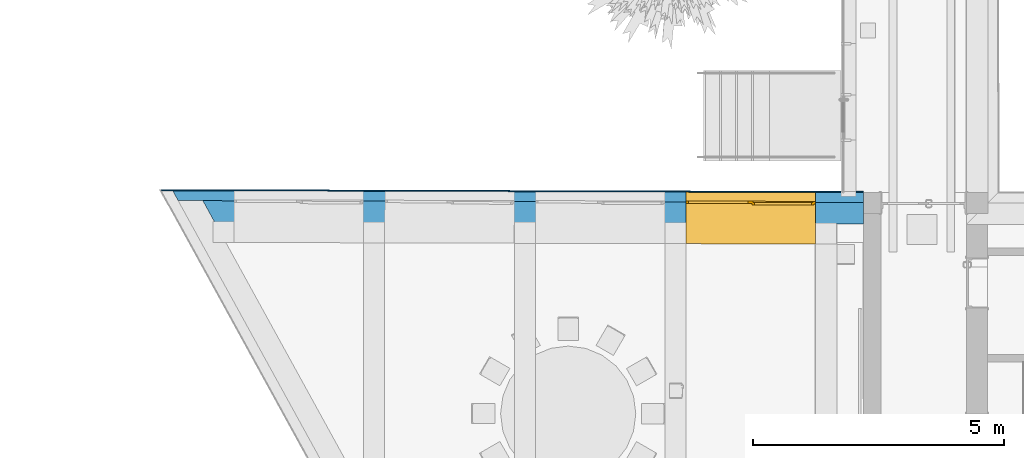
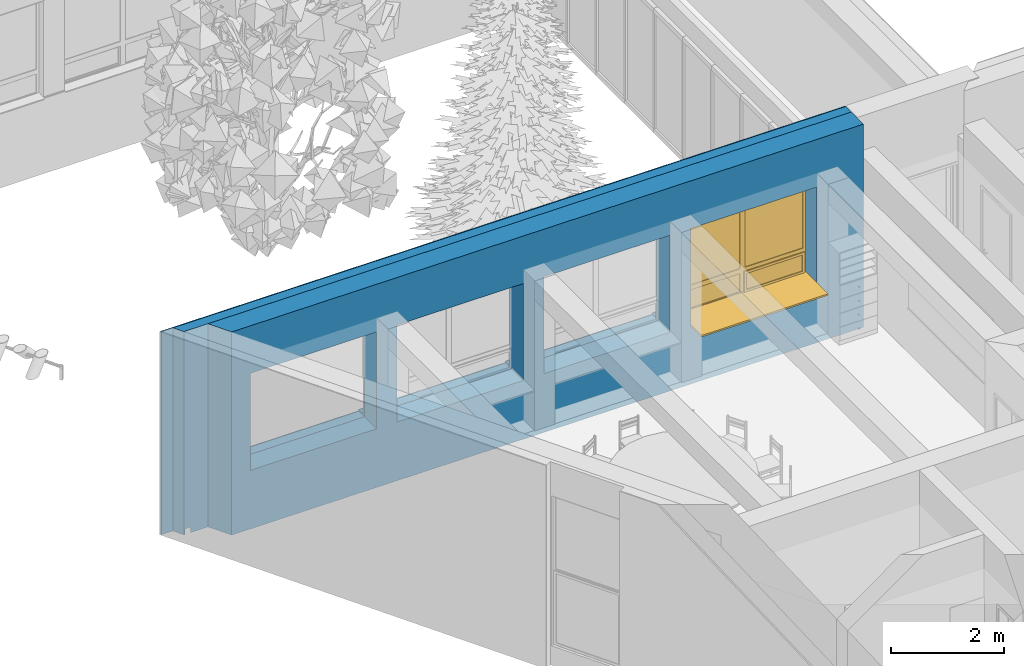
# One storey, part 83 of 194: 3 building element parts, 1 window, 4 openings, 1 element without a shape of its own.
"""IFC2X3 building model written with IfcOpenShell, lengths in millimetres."""

from ifc_helpers import new_model, entity, si_unit, converted_unit, derived_unit, money_unit, direction, frame, origin_with_axes, origin_2d_with_axis, place, context, subcontext, project, spatial, polyline, rectangle, outline, extrude, boolean, open_shell, faceted_brep, surface_model, material, type_object, element, fill, aggregate, save


model = new_model("IFC2X3")

# Units and contexts
model_context = context("Model", 3, precision=1e-05, world=origin_with_axes(), true_north=direction((0.0, 1.0)))
body_context = subcontext(model_context, "Body", "Model", "MODEL_VIEW")
ifc_project = project(units=[si_unit("LENGTHUNIT", "METRE", prefix="MILLI"), si_unit("AREAUNIT", "SQUARE_METRE"), si_unit("VOLUMEUNIT", "CUBIC_METRE"), converted_unit("PLANEANGLEUNIT", "DEGREE", entity("IfcPlaneAngleMeasure", 0.0174532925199), si_unit("PLANEANGLEUNIT", "RADIAN"), dimensions=[0, 0, 0, 0, 0, 0, 0]), si_unit("SOLIDANGLEUNIT", "STERADIAN"), money_unit("EUR"), converted_unit("TIMEUNIT", "Year", entity("IfcTimeMeasure", 31556926.0), si_unit("TIMEUNIT", "SECOND"), dimensions=[0, 0, 1, 0, 0, 0, 0]), si_unit("MASSUNIT", "GRAM", prefix="KILO"), si_unit("THERMODYNAMICTEMPERATUREUNIT", "DEGREE_CELSIUS"), si_unit("LUMINOUSINTENSITYUNIT", "LUMEN"), si_unit("ENERGYUNIT", "JOULE", prefix="MEGA"), derived_unit("THERMALCONDUCTANCEUNIT", [(si_unit("POWERUNIT", "WATT"), 1), (si_unit("LENGTHUNIT", "METRE"), -1), (si_unit("THERMODYNAMICTEMPERATUREUNIT", "KELVIN"), -1)]), derived_unit("SPECIFICHEATCAPACITYUNIT", [(si_unit("ENERGYUNIT", "JOULE"), 1), (si_unit("MASSUNIT", "GRAM", prefix="KILO"), -1), (si_unit("THERMODYNAMICTEMPERATUREUNIT", "KELVIN"), -1)]), derived_unit("MASSDENSITYUNIT", [(si_unit("MASSUNIT", "GRAM", prefix="KILO"), 1), (si_unit("VOLUMEUNIT", "CUBIC_METRE"), -1)])], contexts=[model_context])

# Site, building, storey
site_placement = place(None, origin_with_axes())
site = spatial("IfcSite", under=ifc_project, at=site_placement, Name="Site", CompositionType="ELEMENT")
building_placement = place(site_placement, origin_with_axes())
building = spatial("IfcBuilding", under=site, at=building_placement, Name="Building", CompositionType="ELEMENT")
storey_placement = place(building_placement, frame((0.0, 0.0, 3000.0), z_axis=(0.0, 0.0, 1.0), x_axis=(1.0, 0.0, 0.0)))
storey = spatial("IfcBuildingStorey", under=building, at=storey_placement, Name="2 KORRUS", CompositionType="ELEMENT", Elevation=3000.0)

# Window
window_style = type_object("IfcWindowStyle", Name="A2   2\xa0580×2\xa0100", ConstructionType="NOTDEFINED", OperationType="USERDEFINED", ParameterTakesPrecedence=False, Sizeable=False)
wall_placement = place(storey_placement, frame((24039.9995096, 22808.1040573, -420.0), z_axis=(0.0, 0.0, 1.0), x_axis=(0.999996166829, -0.0027688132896, 0.0)))
opening_1_placement = place(wall_placement, frame((11402.4933934, 0.0, 1270.0), z_axis=(0.0, 0.0, 1.0), x_axis=(1.0, 0.0, 0.0)))
window_placement = place(opening_1_placement, frame((1290.0, 0.0, 0.0), z_axis=(0.0, 0.0, 1.0), x_axis=(-1.0, 0.0, 0.0)))
window = element("IfcWindow", 1, at=window_placement, inside=storey, type_object=window_style, Name="välisaken * Double Window 22", OverallHeight=2100.0, OverallWidth=2580.0, context=body_context, shape_type="SurfaceModel", body=[
    faceted_brep([(2580.0, -219.999999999, 5.0), (2580.0, -19.9999999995, 5.0), (2580.0, -19.9999999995, 30.0), (2580.0, -219.999999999, 19.5184441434), (-1.13686837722e-10, -20.0000000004, 5.0), (0.0, -220.0, 5.0), (-1.13686837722e-10, -20.0000000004, 30.0), (0.0, -220.0, 19.5184441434)], [[[0, 1, 2, 3]], [[4, 1, 0, 5]], [[1, 4, 6, 2]], [[3, 2, 6, 7]], [[5, 0, 3, 7]], [[4, 5, 7, 6]]]),
    faceted_brep([(2580.0, -19.9999999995, 0.0), (2580.0, -19.9999999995, 5.0), (2580.0, -219.999999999, 5.0), (2580.0, -219.999999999, 0.0), (-1.13686837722e-10, -20.0000000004, 0.0), (-1.13686837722e-10, -20.0000000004, 5.0), (0.0, -220.0, 5.0), (0.0, -220.0, 0.0)], [[[0, 1, 2, 3]], [[4, 5, 1, 0]], [[1, 5, 6, 2]], [[3, 2, 6, 7]], [[0, 3, 7, 4]], [[7, 6, 5, 4]]]),
    faceted_brep([(-1.13686837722e-10, 29.9999999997, 0.0), (-1.13686837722e-10, 29.9999999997, 30.0), (0.0, 430.0, 30.0), (0.0, 430.0, 0.0), (2580.0, 30.0000000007, 0.0), (2580.0, 30.0000000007, 30.0), (2580.0, 430.0, 30.0), (2580.0, 830.000000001, 30.0), (0.0, 830.000000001, 30.0), (0.0, 830.000000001, 0.0), (2580.0, 830.000000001, 0.0), (2580.0, 430.0, 0.0)], [[[0, 1, 2, 3]], [[4, 5, 1, 0]], [[1, 5, 6, 7, 8, 2]], [[3, 2, 8, 9]], [[0, 3, 9, 10, 11, 4]], [[11, 6, 5, 4]], [[10, 7, 6, 11]], [[9, 8, 7, 10]]]),
    faceted_brep([(25.0, 30.0000000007, 475.0), (25.0, 30.0000000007, 50.0), (-1.13686837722e-10, 29.9999999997, 50.0), (-1.13686837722e-10, 29.9999999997, 2050.0), (50.0, 30.0000000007, 2050.0), (50.0, 30.0000000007, 550.0), (50.0, 30.0000000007, 475.0), (25.0, 5.00000000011, 475.0), (25.0, 5.00000000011, 50.0), (50.0, 5.00000000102, 50.0), (50.0, -19.9999999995, 50.0), (-1.13686837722e-10, -20.0000000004, 50.0), (-1.13686837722e-10, -20.0000000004, 2050.0), (50.0, -19.9999999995, 2050.0), (50.0, -19.9999999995, 550.0), (50.0, 5.00000000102, 475.0), (50.0, -19.9999999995, 450.0), (50.0, 5.00000000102, 450.0)], [[[0, 1, 2, 3, 4, 5, 6]], [[1, 0, 7, 8]], [[8, 9, 10, 11, 2, 1]], [[2, 11, 12, 3]], [[3, 12, 13, 4]], [[4, 13, 14, 5]], [[15, 6, 5, 14, 16, 17]], [[0, 6, 15, 7]], [[9, 8, 7, 15, 17]], [[9, 17, 16, 10]], [[11, 10, 16, 14, 13, 12]]]),
    faceted_brep([(1265.0, 29.9999999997, 50.0), (1265.0, 29.9999999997, 475.0), (1240.0, 30.0000000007, 475.0), (1240.0, 30.0000000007, 550.0), (1240.0, 30.0000000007, 2050.0), (1340.0, 30.0000000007, 2050.0), (1340.0, 30.0000000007, 550.0), (1340.0, 30.0000000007, 450.0), (1340.0, 30.0000000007, 50.0), (1265.0, 5.00000000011, 50.0), (1265.0, 5.00000000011, 475.0), (1240.0, 5.00000000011, 475.0), (1240.0, 5.00000000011, 450.0), (1240.0, -19.9999999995, 450.0), (1240.0, -19.9999999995, 550.0), (1240.0, -19.9999999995, 2050.0), (1340.0, -19.9999999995, 2050.0), (1340.0, -19.9999999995, 550.0), (1340.0, -19.9999999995, 450.0), (1340.0, -19.9999999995, 50.0), (1240.0, -19.9999999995, 50.0), (1240.0, 5.00000000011, 50.0)], [[[0, 1, 2, 3, 4, 5, 6, 7, 8]], [[1, 0, 9, 10]], [[11, 2, 1, 10]], [[11, 12, 13, 14, 3, 2]], [[3, 14, 15, 4]], [[4, 15, 16, 5]], [[5, 16, 17, 6]], [[6, 17, 18, 7]], [[7, 18, 19, 8]], [[9, 0, 8, 19, 20, 21]], [[12, 11, 10, 9, 21]], [[12, 21, 20, 13]], [[18, 17, 16, 15, 14, 13, 20, 19]]]),
    faceted_brep([(1240.0, 30.0000000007, 475.0), (50.0, 30.0000000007, 475.0), (50.0, 30.0000000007, 550.0), (1240.0, 30.0000000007, 550.0), (50.0, 5.00000000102, 475.0), (1240.0, 5.00000000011, 475.0), (50.0, 5.00000000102, 450.0), (50.0, -19.9999999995, 450.0), (50.0, -19.9999999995, 550.0), (1240.0, -19.9999999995, 550.0), (1240.0, -19.9999999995, 450.0), (1240.0, 5.00000000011, 450.0)], [[[0, 1, 2, 3]], [[4, 1, 0, 5]], [[4, 6, 7, 8, 2, 1]], [[2, 8, 9, 3]], [[5, 0, 3, 9, 10, 11]], [[6, 4, 5, 11]], [[6, 11, 10, 7]], [[10, 9, 8, 7]]]),
    faceted_brep([(50.0, 5.00000000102, 50.0), (25.0, 5.00000000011, 50.0), (25.0, 30.0000000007, 50.0), (-1.13686837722e-10, 29.9999999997, 50.0), (-1.13686837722e-10, -20.0000000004, 50.0), (50.0, -19.9999999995, 50.0), (1240.0, 5.00000000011, 50.0), (1265.0, 5.00000000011, 50.0), (1265.0, 5.00000000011, 25.0), (25.0, 5.00000000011, 25.0), (25.0, 30.0000000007, 25.0), (1265.0, 29.9999999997, 25.0), (1265.0, 29.9999999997, 50.0), (1340.0, 30.0000000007, 50.0), (2530.0, 29.9999999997, 50.0), (2580.0, 30.0000000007, 50.0), (2580.0, 30.0000000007, 0.0), (-1.13686837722e-10, 29.9999999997, 0.0), (-1.13686837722e-10, -20.0000000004, 0.0), (2580.0, -19.9999999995, 50.0), (2530.0, -19.9999999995, 50.0), (1340.0, -19.9999999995, 50.0), (1240.0, -19.9999999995, 50.0), (2580.0, -19.9999999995, 0.0)], [[[0, 1, 2, 3, 4, 5]], [[1, 0, 6, 7, 8, 9]], [[10, 2, 1, 9]], [[11, 12, 13, 14, 15, 16, 17, 3, 2, 10]], [[17, 18, 4, 3]], [[19, 20, 21, 22, 5, 4, 18, 23]], [[6, 0, 5, 22]], [[7, 6, 22, 21, 13, 12]], [[7, 12, 11, 8]], [[11, 10, 9, 8]], [[13, 21, 20, 14]], [[14, 20, 19, 15]], [[15, 19, 23, 16]], [[16, 23, 18, 17]]]),
    faceted_brep([(2530.0, -19.9999999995, 450.0), (2530.0, -19.9999999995, 550.0), (2530.0, 29.9999999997, 550.0), (2530.0, 29.9999999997, 450.0), (2530.0, -19.9999999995, 50.0), (2580.0, -19.9999999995, 50.0), (2580.0, -19.9999999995, 2050.0), (2530.0, -19.9999999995, 2050.0), (2530.0, 29.9999999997, 2050.0), (2580.0, 30.0000000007, 2050.0), (2580.0, 30.0000000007, 50.0), (2530.0, 29.9999999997, 50.0)], [[[0, 1, 2, 3]], [[0, 4, 5, 6, 7, 1]], [[1, 7, 8, 2]], [[3, 2, 8, 9, 10, 11]], [[4, 0, 3, 11]], [[5, 4, 11, 10]], [[6, 5, 10, 9]], [[7, 6, 9, 8]]]),
    faceted_brep([(1340.0, -19.9999999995, 450.0), (1340.0, -19.9999999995, 550.0), (1340.0, 30.0000000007, 550.0), (1340.0, 30.0000000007, 450.0), (2530.0, -19.9999999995, 450.0), (2530.0, -19.9999999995, 550.0), (2530.0, 29.9999999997, 550.0), (2530.0, 29.9999999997, 450.0)], [[[0, 1, 2, 3]], [[0, 4, 5, 1]], [[1, 5, 6, 2]], [[3, 2, 6, 7]], [[4, 0, 3, 7]], [[5, 4, 7, 6]]]),
    faceted_brep([(1340.0, -19.9999999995, 2050.0), (1240.0, -19.9999999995, 2050.0), (1240.0, 30.0000000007, 2050.0), (1340.0, 30.0000000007, 2050.0), (2530.0, -19.9999999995, 2050.0), (2580.0, -19.9999999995, 2050.0), (2580.0, -19.9999999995, 2100.0), (-1.13686837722e-10, -20.0000000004, 2100.0), (-1.13686837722e-10, -20.0000000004, 2050.0), (50.0, -19.9999999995, 2050.0), (50.0, 30.0000000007, 2050.0), (-1.13686837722e-10, 29.9999999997, 2050.0), (-1.13686837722e-10, 29.9999999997, 2100.0), (2580.0, 30.0000000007, 2100.0), (2580.0, 30.0000000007, 2050.0), (2530.0, 29.9999999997, 2050.0)], [[[0, 1, 2, 3]], [[0, 4, 5, 6, 7, 8, 9, 1]], [[1, 9, 10, 2]], [[3, 2, 10, 11, 12, 13, 14, 15]], [[4, 0, 3, 15]], [[5, 4, 15, 14]], [[6, 5, 14, 13]], [[7, 6, 13, 12]], [[8, 7, 12, 11]], [[9, 8, 11, 10]]]),
    surface_model("IfcShellBasedSurfaceModel", [(2530.0, -4.9999999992, 550.0), (2530.0, -4.9999999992, 2050.0), (1340.0, -5.00000000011, 2050.0), (1340.0, -5.00000000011, 550.0)], [open_shell([[[0, 1, 2, 3]]])]),
    surface_model("IfcShellBasedSurfaceModel", [(2530.0, 15.0000000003, 550.0), (1340.0, 14.9999999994, 550.0), (1340.0, 14.9999999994, 2050.0), (2530.0, 15.0000000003, 2050.0)], [open_shell([[[0, 1, 2, 3]]])]),
    surface_model("IfcShellBasedSurfaceModel", [(1240.0, -4.9999999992, 550.0), (1240.0, -4.9999999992, 2050.0), (50.0, -4.9999999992, 2050.0), (50.0, -4.9999999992, 550.0)], [open_shell([[[0, 1, 2, 3]]])]),
    surface_model("IfcShellBasedSurfaceModel", [(1240.0, 15.0000000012, 550.0), (50.0, 15.0000000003, 550.0), (50.0, 15.0000000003, 2050.0), (1240.0, 15.0000000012, 2050.0)], [open_shell([[[0, 1, 2, 3]]])]),
    surface_model("IfcShellBasedSurfaceModel", [(2530.0, -4.9999999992, 50.0), (2530.0, -4.9999999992, 450.0), (1340.0, -5.00000000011, 450.0), (1340.0, -5.00000000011, 50.0)], [open_shell([[[0, 1, 2, 3]]])]),
    surface_model("IfcShellBasedSurfaceModel", [(2530.0, 15.0000000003, 50.0), (1340.0, 14.9999999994, 50.0), (1340.0, 14.9999999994, 450.0), (2530.0, 15.0000000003, 450.0)], [open_shell([[[0, 1, 2, 3]]])]),
    faceted_brep([(1215.0, 5.00000000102, 425.0), (1265.0, 5.00000000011, 425.0), (1265.0, 55.0000000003, 425.0), (1215.0, 55.0000000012, 425.0), (1215.0, 5.00000000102, 75.0), (1265.0, 5.00000000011, 75.0), (1265.0, 55.0000000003, 75.0), (1215.0, 55.0000000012, 75.0)], [[[0, 1, 2, 3]], [[0, 4, 5, 1]], [[1, 5, 6, 2]], [[3, 2, 6, 7]], [[4, 0, 3, 7]], [[5, 4, 7, 6]]]),
    faceted_brep([(74.9999999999, 5.00000000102, 75.0), (25.0, 5.00000000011, 75.0), (25.0, 55.0000000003, 75.0), (75.0, 55.0000000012, 75.0), (74.9999999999, 5.00000000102, 425.0), (25.0, 5.00000000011, 425.0), (25.0, 55.0000000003, 425.0), (75.0, 55.0000000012, 425.0)], [[[0, 1, 2, 3]], [[0, 4, 5, 1]], [[1, 5, 6, 2]], [[3, 2, 6, 7]], [[4, 0, 3, 7]], [[5, 4, 7, 6]]]),
    faceted_brep([(25.0, 5.00000000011, 25.0), (25.0, 5.00000000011, 75.0), (25.0, 55.0000000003, 75.0), (25.0, 55.0000000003, 25.0), (1265.0, 5.00000000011, 25.0), (1265.0, 5.00000000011, 75.0), (1215.0, 5.00000000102, 75.0), (74.9999999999, 5.00000000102, 75.0), (75.0, 55.0000000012, 75.0), (1215.0, 55.0000000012, 75.0), (1265.0, 55.0000000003, 75.0), (1265.0, 55.0000000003, 25.0)], [[[0, 1, 2, 3]], [[0, 4, 5, 6, 7, 1]], [[1, 7, 8, 2]], [[3, 2, 8, 9, 10, 11]], [[4, 0, 3, 11]], [[5, 4, 11, 10]], [[6, 5, 10, 9]], [[7, 6, 9, 8]]]),
    faceted_brep([(1265.0, 5.00000000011, 475.0), (1265.0, 5.00000000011, 425.0), (1265.0, 55.0000000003, 425.0), (1265.0, 55.0000000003, 475.0), (25.0, 5.00000000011, 475.0), (25.0, 5.00000000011, 425.0), (74.9999999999, 5.00000000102, 425.0), (1215.0, 5.00000000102, 425.0), (1215.0, 55.0000000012, 425.0), (75.0, 55.0000000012, 425.0), (25.0, 55.0000000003, 425.0), (25.0, 55.0000000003, 475.0)], [[[0, 1, 2, 3]], [[0, 4, 5, 6, 7, 1]], [[1, 7, 8, 2]], [[3, 2, 8, 9, 10, 11]], [[4, 0, 3, 11]], [[5, 4, 11, 10]], [[6, 5, 10, 9]], [[7, 6, 9, 8]]]),
    surface_model("IfcShellBasedSurfaceModel", [(1215.0, 20.0000000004, 75.0), (1215.0, 20.0000000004, 425.0), (75.0, 20.0000000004, 425.0), (75.0, 20.0000000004, 75.0)], [open_shell([[[0, 1, 2, 3]]])]),
    surface_model("IfcShellBasedSurfaceModel", [(1215.0, 40.0000000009, 75.0), (75.0, 40.0000000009, 75.0), (75.0, 40.0000000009, 425.0), (1215.0, 40.0000000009, 425.0)], [open_shell([[[0, 1, 2, 3]]])]),
])

# Wall, opening
wall_type = type_object("IfcWallType", Name="VS4", PredefinedType="NOTDEFINED")
wall = element("IfcWall", 2, at=wall_placement, inside=storey, type_object=wall_type, Name="VS4")
opening_1 = element("IfcOpeningElement", 3, at=opening_1_placement, cuts=wall, Name="välisaken * Double Window 22", context=body_context, shape_type="SweptSolid", body=[
    extrude(rectangle(XDim=2580.0, YDim=2100.0, at=origin_2d_with_axis()), frame((0.0, 19.9999999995, 1050.0), z_axis=(0.0, -1.0, 0.0), x_axis=(1.0, 0.0, 0.0)), (0.0, 0.0, 1.0), 1100.0),
    extrude(rectangle(XDim=2580.0, YDim=2100.0, at=origin_2d_with_axis()), frame((1.13686837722e-10, 19.9999999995, 1050.0), z_axis=(0.0, 1.0, 0.0), x_axis=(1.0, 0.0, 0.0)), (0.0, 0.0, 1.0), 850.0),
])

fill(opening_1, window)

# Opening
opening_2_placement = place(wall_placement, frame((8405.57062544, -9.09494701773e-10, 1270.0), z_axis=(0.0, 0.0, 1.0), x_axis=(1.0, 0.0, 0.0)))
element("IfcOpeningElement", 4, at=opening_2_placement, cuts=wall, Name="välisaken * Double Window 22", context=body_context, shape_type="SweptSolid", body=[
    extrude(rectangle(XDim=2580.0, YDim=2100.0, at=origin_2d_with_axis()), frame((0.0, 19.9999999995, 1050.0), z_axis=(0.0, -1.0, 0.0), x_axis=(1.0, 0.0, 0.0)), (0.0, 0.0, 1.0), 1100.0),
    extrude(rectangle(XDim=2580.0, YDim=2100.0, at=origin_2d_with_axis()), frame((0.0, 19.9999999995, 1050.0), z_axis=(0.0, 1.0, 0.0), x_axis=(1.0, 0.0, 0.0)), (0.0, 0.0, 1.0), 850.0),
])

opening_3_placement = place(wall_placement, frame((5405.57062544, 0.0, 1270.0), z_axis=(0.0, 0.0, 1.0), x_axis=(1.0, 0.0, 0.0)))
element("IfcOpeningElement", 5, at=opening_3_placement, cuts=wall, Name="välisaken * Double Window 22", context=body_context, shape_type="SweptSolid", body=[
    extrude(rectangle(XDim=2580.0, YDim=2100.0, at=origin_2d_with_axis()), frame((1.13686837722e-10, 20.0000000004, 1050.0), z_axis=(0.0, -1.0, 0.0), x_axis=(1.0, 0.0, 0.0)), (0.0, 0.0, 1.0), 1100.0),
    extrude(rectangle(XDim=2580.0, YDim=2100.0, at=origin_2d_with_axis()), frame((1.13686837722e-10, 20.0000000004, 1050.0), z_axis=(0.0, 1.0, 0.0), x_axis=(1.0, 0.0, 0.0)), (0.0, 0.0, 1.0), 850.0),
])

opening_4_placement = place(wall_placement, frame((2405.57062544, 9.09494701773e-10, 1270.0), z_axis=(0.0, 0.0, 1.0), x_axis=(1.0, 0.0, 0.0)))
element("IfcOpeningElement", 6, at=opening_4_placement, cuts=wall, Name="välisaken * Double Window 22", context=body_context, shape_type="SweptSolid", body=[
    extrude(rectangle(XDim=2580.0, YDim=2100.0, at=origin_2d_with_axis()), frame((1.13686837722e-10, 19.9999999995, 1050.0), z_axis=(0.0, -1.0, 0.0), x_axis=(1.0, 0.0, 0.0)), (0.0, 0.0, 1.0), 1100.0),
    extrude(rectangle(XDim=2580.0, YDim=2100.0, at=origin_2d_with_axis()), frame((1.13686837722e-10, 19.9999999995, 1050.0), z_axis=(0.0, 1.0, 0.0), x_axis=(1.0, 0.0, 0.0)), (0.0, 0.0, 1.0), 850.0),
])

# Building element part
ifc_material_1 = material(Name="Tellis - Konstuktsioon")
building_element_part_1_placement = place(wall_placement, origin_with_axes())
solid_1 = boolean("DIFFERENCE", boolean("DIFFERENCE", boolean("DIFFERENCE", boolean("DIFFERENCE", boolean("DIFFERENCE", boolean("DIFFERENCE", boolean("DIFFERENCE", boolean("DIFFERENCE", extrude(outline(polyline([(-373.259010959, -430.0), (13648.1213334, -430.0), (13648.1213334, 0.0), (-373.259010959, 0.0), (-373.259010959, -430.0)])), origin_with_axes(), (0.0, 0.0, 1.0), 4400.0), faceted_brep([(729.551703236, -430.0, 0.0), (729.551703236, -430.0, 4400.0), (-373.259010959, -430.0, 4400.0), (-373.259010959, -430.0, 0.0), (491.497507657, 0.0, 4400.0), (491.497507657, 0.0, 0.0), (-373.259010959, 0.0, 4400.0), (-373.259010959, 0.0, 0.0)], [[[0, 1, 2, 3]], [[4, 1, 0, 5]], [[1, 4, 6, 2]], [[3, 2, 6, 7]], [[5, 0, 3, 7]], [[4, 5, 7, 6]]])), faceted_brep([(18.915191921, 0.0, 122.647898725), (18.9151919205, 9.09494701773e-10, 0.0), (134.721092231, 9.09494701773e-10, 0.0), (134.72109223, 0.0, 122.647898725), (-90.7482444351, 200.0, 122.647898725), (-90.7482444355, 200.000000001, 0.0), (479.482351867, 200.000000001, 0.0), (484.103394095, 191.572319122, 0.0), (484.103394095, 191.572319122, 122.647898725), (479.482351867, 200.0, 122.647898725)], [[[0, 1, 2, 3]], [[1, 0, 4, 5]], [[2, 1, 5, 6, 7]], [[3, 2, 7, 8]], [[0, 3, 8, 9, 4]], [[5, 4, 9, 6]], [[7, 6, 9, 8]]])), faceted_brep([(-373.259010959, 0.0, 0.0), (0.0, 9.09494701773e-10, 0.0), (0.0, 9.09494701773e-10, 4400.0), (-373.259010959, 0.0, 4400.0), (-373.259010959, 200.0, 0.0), (-110.722881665, 200.000000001, 0.0), (-110.722881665, 200.000000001, 4400.0), (-373.259010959, 200.0, 4400.0)], [[[0, 1, 2, 3]], [[1, 0, 4, 5]], [[2, 1, 5, 6]], [[3, 2, 6, 7]], [[4, 0, 3, 7]], [[5, 4, 7, 6]]])), faceted_brep([(13416.1760753, 0.0081175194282, 340.0), (13416.176095, 9.09494701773e-10, 420.0), (13323.1995313, 0.151845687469, 420.0), (13323.1995313, 0.151845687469, 340.0), (13416.176095, 9.09494701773e-10, 0.0), (13648.1213334, 0.0, 0.0), (13648.1213334, 0.0, 420.0), (13648.1213334, 200.0, 420.0), (13322.7166463, 200.000000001, 420.0), (13322.7166463, 200.000000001, 340.0), (13415.6925541, 200.0, 340.0), (13415.6925541, 200.0, 0.0), (13648.1213334, 200.0, 0.0)], [[[0, 1, 2, 3]], [[0, 4, 5, 6, 1]], [[2, 1, 6, 7, 8]], [[3, 2, 8, 9]], [[0, 3, 9, 10]], [[4, 0, 10, 11]], [[5, 4, 11, 12]], [[6, 5, 12, 7]], [[9, 8, 7, 12, 11, 10]]])), faceted_brep([(728.20897733, 54.9444939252, 1300.0), (12965.6129154, 88.8277104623, 1300.0), (12965.6129154, 88.8277104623, 3400.0), (728.20897733, 54.9444939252, 3400.0), (727.807344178, 200.0, 1300.0), (12965.3050989, 200.0, 1300.0), (12965.3050989, 200.0, 3400.0), (727.807344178, 200.0, 3400.0)], [[[0, 1, 2, 3]], [[0, 4, 5, 1]], [[1, 5, 6, 2]], [[7, 3, 2, 6]], [[3, 7, 4, 0]], [[6, 5, 4, 7]]])), faceted_brep([(-339.326373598, 200.000000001, 0.0), (-339.326373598, 200.000000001, 4400.0), (-373.259010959, 200.0, 4400.0), (-373.259010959, 200.0, 0.0), (-350.398661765, 220.0, 4400.0), (-350.398661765, 220.0, 0.0), (-373.259010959, 219.999999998, 4400.0), (-373.259010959, 219.999999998, 0.0)], [[[0, 1, 2, 3]], [[4, 1, 0, 5]], [[1, 4, 6, 2]], [[6, 7, 3, 2]], [[5, 0, 3, 7]], [[4, 5, 7, 6]]])), faceted_brep([(-90.7482444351, 200.0, 122.647898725), (-90.7482444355, 200.000000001, 0.0), (479.482351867, 200.000000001, 0.0), (479.482351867, 200.0, 122.647898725), (-101.714588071, 220.000000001, 0.0), (-101.714588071, 220.000000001, 122.647898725), (468.516008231, 220.0, 0.0), (468.516008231, 220.000000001, 122.647898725)], [[[0, 1, 2, 3]], [[4, 1, 0, 5]], [[6, 2, 1, 4]], [[2, 6, 7, 3]], [[7, 5, 0, 3]], [[7, 6, 4, 5]]])), faceted_brep([(727.807344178, 200.0, 1300.0), (12965.3050989, 200.0, 1300.0), (12965.3050989, 200.0, 3400.0), (727.807344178, 200.0, 3400.0), (727.7519677, 220.0, 1300.0), (12965.2497224, 220.000000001, 1300.0), (12965.2497224, 220.000000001, 3400.0), (727.7519677, 219.999999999, 3400.0)], [[[0, 1, 2, 3]], [[4, 5, 1, 0]], [[5, 6, 2, 1]], [[6, 7, 3, 2]], [[7, 4, 0, 3]], [[4, 7, 6, 5]]]))
building_element_part_1 = element("IfcBuildingElementPart", 7, at=building_element_part_1_placement, material=ifc_material_1, Name="Tellis - Konstuktsioon", context=body_context, shape_type="CSG", body=[
    boolean("DIFFERENCE", solid_1, faceted_brep([(13322.6683211, 220.000000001, 340.0), (13322.6683211, 220.000000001, 420.0), (13648.1213334, 220.0, 420.0), (13648.1213334, 219.999999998, 0.0), (13415.6442, 220.0, 0.0), (13415.6442, 220.0, 340.0), (13322.7166463, 200.000000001, 340.0), (13322.7166463, 200.000000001, 420.0), (13648.1213334, 200.0, 420.0), (13648.1213334, 200.0, 0.0), (13415.6925541, 200.0, 0.0), (13415.6925541, 200.0, 340.0)], [[[0, 1, 2, 3, 4, 5]], [[1, 0, 6, 7]], [[8, 2, 1, 7]], [[2, 8, 9, 3]], [[10, 4, 3, 9]], [[5, 4, 10, 11]], [[0, 5, 11, 6]], [[11, 10, 9, 8, 7, 6]]])),
])

ifc_material_2 = material(Name="Soojustus - Plastik Kõva")
building_element_part_2_placement = place(wall_placement, origin_with_axes())
solid_2 = boolean("DIFFERENCE", boolean("DIFFERENCE", boolean("DIFFERENCE", boolean("DIFFERENCE", boolean("DIFFERENCE", boolean("DIFFERENCE", boolean("DIFFERENCE", boolean("DIFFERENCE", extrude(outline(polyline([(-373.259010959, 0.0), (13648.1213334, 0.0), (13648.1213334, 200.0), (-373.259010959, 200.0), (-373.259010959, 0.0)])), origin_with_axes(), (0.0, 0.0, 1.0), 4400.0), faceted_brep([(729.551703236, -430.0, 0.0), (729.551703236, -430.0, 4400.0), (-373.259010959, -430.0, 4400.0), (-373.259010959, -430.0, 0.0), (491.497507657, 0.0, 4400.0), (491.497507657, 0.0, 0.0), (-373.259010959, 0.0, 4400.0), (-373.259010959, 0.0, 0.0)], [[[0, 1, 2, 3]], [[4, 1, 0, 5]], [[1, 4, 6, 2]], [[3, 2, 6, 7]], [[5, 0, 3, 7]], [[4, 5, 7, 6]]])), faceted_brep([(18.915191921, 0.0, 122.647898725), (18.9151919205, 9.09494701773e-10, 0.0), (134.721092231, 9.09494701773e-10, 0.0), (134.72109223, 0.0, 122.647898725), (-90.7482444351, 200.0, 122.647898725), (-90.7482444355, 200.000000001, 0.0), (479.482351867, 200.000000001, 0.0), (484.103394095, 191.572319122, 0.0), (484.103394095, 191.572319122, 122.647898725), (479.482351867, 200.0, 122.647898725)], [[[0, 1, 2, 3]], [[1, 0, 4, 5]], [[2, 1, 5, 6, 7]], [[3, 2, 7, 8]], [[0, 3, 8, 9, 4]], [[5, 4, 9, 6]], [[7, 6, 9, 8]]])), faceted_brep([(-373.259010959, 0.0, 0.0), (0.0, 9.09494701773e-10, 0.0), (0.0, 9.09494701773e-10, 4400.0), (-373.259010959, 0.0, 4400.0), (-373.259010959, 200.0, 0.0), (-110.722881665, 200.000000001, 0.0), (-110.722881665, 200.000000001, 4400.0), (-373.259010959, 200.0, 4400.0)], [[[0, 1, 2, 3]], [[1, 0, 4, 5]], [[2, 1, 5, 6]], [[3, 2, 6, 7]], [[4, 0, 3, 7]], [[5, 4, 7, 6]]])), faceted_brep([(13416.1760753, 0.0081175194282, 340.0), (13416.176095, 9.09494701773e-10, 420.0), (13323.1995313, 0.151845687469, 420.0), (13323.1995313, 0.151845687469, 340.0), (13416.176095, 9.09494701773e-10, 0.0), (13648.1213334, 0.0, 0.0), (13648.1213334, 0.0, 420.0), (13648.1213334, 200.0, 420.0), (13322.7166463, 200.000000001, 420.0), (13322.7166463, 200.000000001, 340.0), (13415.6925541, 200.0, 340.0), (13415.6925541, 200.0, 0.0), (13648.1213334, 200.0, 0.0)], [[[0, 1, 2, 3]], [[0, 4, 5, 6, 1]], [[2, 1, 6, 7, 8]], [[3, 2, 8, 9]], [[0, 3, 9, 10]], [[4, 0, 10, 11]], [[5, 4, 11, 12]], [[6, 5, 12, 7]], [[9, 8, 7, 12, 11, 10]]])), faceted_brep([(728.20897733, 54.9444939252, 1300.0), (12965.6129154, 88.8277104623, 1300.0), (12965.6129154, 88.8277104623, 3400.0), (728.20897733, 54.9444939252, 3400.0), (727.807344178, 200.0, 1300.0), (12965.3050989, 200.0, 1300.0), (12965.3050989, 200.0, 3400.0), (727.807344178, 200.0, 3400.0)], [[[0, 1, 2, 3]], [[0, 4, 5, 1]], [[1, 5, 6, 2]], [[7, 3, 2, 6]], [[3, 7, 4, 0]], [[6, 5, 4, 7]]])), faceted_brep([(-339.326373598, 200.000000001, 0.0), (-339.326373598, 200.000000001, 4400.0), (-373.259010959, 200.0, 4400.0), (-373.259010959, 200.0, 0.0), (-350.398661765, 220.0, 4400.0), (-350.398661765, 220.0, 0.0), (-373.259010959, 219.999999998, 4400.0), (-373.259010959, 219.999999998, 0.0)], [[[0, 1, 2, 3]], [[4, 1, 0, 5]], [[1, 4, 6, 2]], [[6, 7, 3, 2]], [[5, 0, 3, 7]], [[4, 5, 7, 6]]])), faceted_brep([(-90.7482444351, 200.0, 122.647898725), (-90.7482444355, 200.000000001, 0.0), (479.482351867, 200.000000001, 0.0), (479.482351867, 200.0, 122.647898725), (-101.714588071, 220.000000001, 0.0), (-101.714588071, 220.000000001, 122.647898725), (468.516008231, 220.0, 0.0), (468.516008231, 220.000000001, 122.647898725)], [[[0, 1, 2, 3]], [[4, 1, 0, 5]], [[6, 2, 1, 4]], [[2, 6, 7, 3]], [[7, 5, 0, 3]], [[7, 6, 4, 5]]])), faceted_brep([(727.807344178, 200.0, 1300.0), (12965.3050989, 200.0, 1300.0), (12965.3050989, 200.0, 3400.0), (727.807344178, 200.0, 3400.0), (727.7519677, 220.0, 1300.0), (12965.2497224, 220.000000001, 1300.0), (12965.2497224, 220.000000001, 3400.0), (727.7519677, 219.999999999, 3400.0)], [[[0, 1, 2, 3]], [[4, 5, 1, 0]], [[5, 6, 2, 1]], [[6, 7, 3, 2]], [[7, 4, 0, 3]], [[4, 7, 6, 5]]]))
building_element_part_2 = element("IfcBuildingElementPart", 8, at=building_element_part_2_placement, material=ifc_material_2, Name="Soojustus - Plastik Kõva", context=body_context, shape_type="CSG", body=[
    boolean("DIFFERENCE", solid_2, faceted_brep([(13322.6683211, 220.000000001, 340.0), (13322.6683211, 220.000000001, 420.0), (13648.1213334, 220.0, 420.0), (13648.1213334, 219.999999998, 0.0), (13415.6442, 220.0, 0.0), (13415.6442, 220.0, 340.0), (13322.7166463, 200.000000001, 340.0), (13322.7166463, 200.000000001, 420.0), (13648.1213334, 200.0, 420.0), (13648.1213334, 200.0, 0.0), (13415.6925541, 200.0, 0.0), (13415.6925541, 200.0, 340.0)], [[[0, 1, 2, 3, 4, 5]], [[1, 0, 6, 7]], [[8, 2, 1, 7]], [[2, 8, 9, 3]], [[10, 4, 3, 9]], [[5, 4, 10, 11]], [[0, 5, 11, 6]], [[11, 10, 9, 8, 7, 6]]])),
])

ifc_material_3 = material(Name="Tellis - Viimistlus")
building_element_part_3_placement = place(wall_placement, origin_with_axes())
solid_3 = boolean("DIFFERENCE", boolean("DIFFERENCE", boolean("DIFFERENCE", boolean("DIFFERENCE", boolean("DIFFERENCE", boolean("DIFFERENCE", boolean("DIFFERENCE", boolean("DIFFERENCE", extrude(outline(polyline([(-373.259010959, 200.0), (13648.1213334, 200.0), (13648.1213334, 219.999999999), (-373.259010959, 219.999999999), (-373.259010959, 200.0)])), origin_with_axes(), (0.0, 0.0, 1.0), 4400.0), faceted_brep([(729.551703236, -430.0, 0.0), (729.551703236, -430.0, 4400.0), (-373.259010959, -430.0, 4400.0), (-373.259010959, -430.0, 0.0), (491.497507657, 0.0, 4400.0), (491.497507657, 0.0, 0.0), (-373.259010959, 0.0, 4400.0), (-373.259010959, 0.0, 0.0)], [[[0, 1, 2, 3]], [[4, 1, 0, 5]], [[1, 4, 6, 2]], [[3, 2, 6, 7]], [[5, 0, 3, 7]], [[4, 5, 7, 6]]])), faceted_brep([(18.915191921, 0.0, 122.647898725), (18.9151919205, 9.09494701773e-10, 0.0), (134.721092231, 9.09494701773e-10, 0.0), (134.72109223, 0.0, 122.647898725), (-90.7482444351, 200.0, 122.647898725), (-90.7482444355, 200.000000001, 0.0), (479.482351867, 200.000000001, 0.0), (484.103394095, 191.572319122, 0.0), (484.103394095, 191.572319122, 122.647898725), (479.482351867, 200.0, 122.647898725)], [[[0, 1, 2, 3]], [[1, 0, 4, 5]], [[2, 1, 5, 6, 7]], [[3, 2, 7, 8]], [[0, 3, 8, 9, 4]], [[5, 4, 9, 6]], [[7, 6, 9, 8]]])), faceted_brep([(-373.259010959, 0.0, 0.0), (0.0, 9.09494701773e-10, 0.0), (0.0, 9.09494701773e-10, 4400.0), (-373.259010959, 0.0, 4400.0), (-373.259010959, 200.0, 0.0), (-110.722881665, 200.000000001, 0.0), (-110.722881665, 200.000000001, 4400.0), (-373.259010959, 200.0, 4400.0)], [[[0, 1, 2, 3]], [[1, 0, 4, 5]], [[2, 1, 5, 6]], [[3, 2, 6, 7]], [[4, 0, 3, 7]], [[5, 4, 7, 6]]])), faceted_brep([(13416.1760753, 0.0081175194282, 340.0), (13416.176095, 9.09494701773e-10, 420.0), (13323.1995313, 0.151845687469, 420.0), (13323.1995313, 0.151845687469, 340.0), (13416.176095, 9.09494701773e-10, 0.0), (13648.1213334, 0.0, 0.0), (13648.1213334, 0.0, 420.0), (13648.1213334, 200.0, 420.0), (13322.7166463, 200.000000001, 420.0), (13322.7166463, 200.000000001, 340.0), (13415.6925541, 200.0, 340.0), (13415.6925541, 200.0, 0.0), (13648.1213334, 200.0, 0.0)], [[[0, 1, 2, 3]], [[0, 4, 5, 6, 1]], [[2, 1, 6, 7, 8]], [[3, 2, 8, 9]], [[0, 3, 9, 10]], [[4, 0, 10, 11]], [[5, 4, 11, 12]], [[6, 5, 12, 7]], [[9, 8, 7, 12, 11, 10]]])), faceted_brep([(728.20897733, 54.9444939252, 1300.0), (12965.6129154, 88.8277104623, 1300.0), (12965.6129154, 88.8277104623, 3400.0), (728.20897733, 54.9444939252, 3400.0), (727.807344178, 200.0, 1300.0), (12965.3050989, 200.0, 1300.0), (12965.3050989, 200.0, 3400.0), (727.807344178, 200.0, 3400.0)], [[[0, 1, 2, 3]], [[0, 4, 5, 1]], [[1, 5, 6, 2]], [[7, 3, 2, 6]], [[3, 7, 4, 0]], [[6, 5, 4, 7]]])), faceted_brep([(-339.326373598, 200.000000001, 0.0), (-339.326373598, 200.000000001, 4400.0), (-373.259010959, 200.0, 4400.0), (-373.259010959, 200.0, 0.0), (-350.398661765, 220.0, 4400.0), (-350.398661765, 220.0, 0.0), (-373.259010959, 219.999999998, 4400.0), (-373.259010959, 219.999999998, 0.0)], [[[0, 1, 2, 3]], [[4, 1, 0, 5]], [[1, 4, 6, 2]], [[6, 7, 3, 2]], [[5, 0, 3, 7]], [[4, 5, 7, 6]]])), faceted_brep([(-90.7482444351, 200.0, 122.647898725), (-90.7482444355, 200.000000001, 0.0), (479.482351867, 200.000000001, 0.0), (479.482351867, 200.0, 122.647898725), (-101.714588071, 220.000000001, 0.0), (-101.714588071, 220.000000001, 122.647898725), (468.516008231, 220.0, 0.0), (468.516008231, 220.000000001, 122.647898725)], [[[0, 1, 2, 3]], [[4, 1, 0, 5]], [[6, 2, 1, 4]], [[2, 6, 7, 3]], [[7, 5, 0, 3]], [[7, 6, 4, 5]]])), faceted_brep([(727.807344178, 200.0, 1300.0), (12965.3050989, 200.0, 1300.0), (12965.3050989, 200.0, 3400.0), (727.807344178, 200.0, 3400.0), (727.7519677, 220.0, 1300.0), (12965.2497224, 220.000000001, 1300.0), (12965.2497224, 220.000000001, 3400.0), (727.7519677, 219.999999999, 3400.0)], [[[0, 1, 2, 3]], [[4, 5, 1, 0]], [[5, 6, 2, 1]], [[6, 7, 3, 2]], [[7, 4, 0, 3]], [[4, 7, 6, 5]]]))
building_element_part_3 = element("IfcBuildingElementPart", 9, at=building_element_part_3_placement, material=ifc_material_3, Name="Tellis - Viimistlus", context=body_context, shape_type="CSG", body=[
    boolean("DIFFERENCE", solid_3, faceted_brep([(13322.6683211, 220.000000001, 340.0), (13322.6683211, 220.000000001, 420.0), (13648.1213334, 220.0, 420.0), (13648.1213334, 219.999999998, 0.0), (13415.6442, 220.0, 0.0), (13415.6442, 220.0, 340.0), (13322.7166463, 200.000000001, 340.0), (13322.7166463, 200.000000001, 420.0), (13648.1213334, 200.0, 420.0), (13648.1213334, 200.0, 0.0), (13415.6925541, 200.0, 0.0), (13415.6925541, 200.0, 340.0)], [[[0, 1, 2, 3, 4, 5]], [[1, 0, 6, 7]], [[8, 2, 1, 7]], [[2, 8, 9, 3]], [[10, 4, 3, 9]], [[5, 4, 10, 11]], [[0, 5, 11, 6]], [[11, 10, 9, 8, 7, 6]]])),
])

aggregate(wall, [building_element_part_1, building_element_part_2, building_element_part_3])

save(model, "model.ifc")
